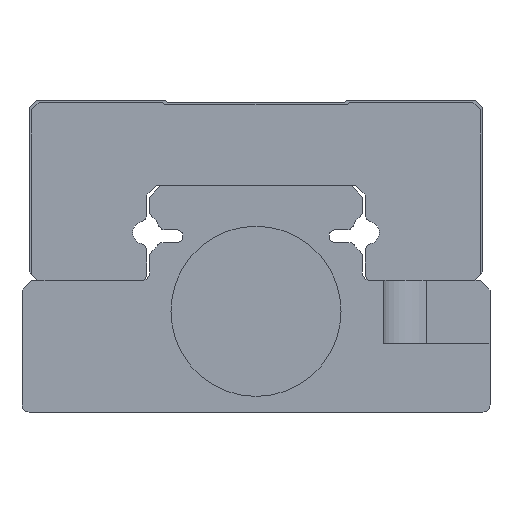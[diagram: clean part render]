
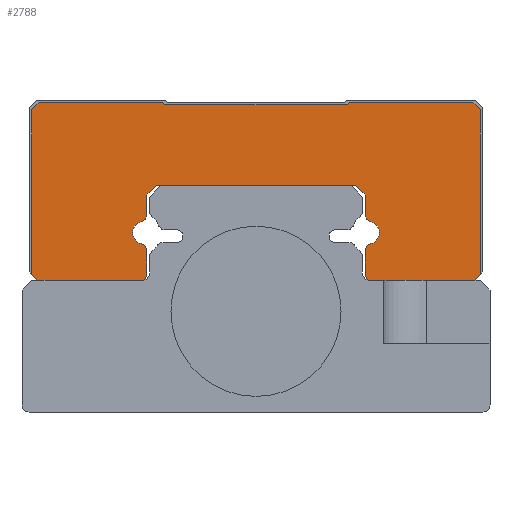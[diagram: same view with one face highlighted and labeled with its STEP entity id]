
A CAD part, front view. The second image highlights one B-rep face of the part: STEP entity #2788.
In plain terms, the highlighted planar face has unit normal (0, -1, 0).
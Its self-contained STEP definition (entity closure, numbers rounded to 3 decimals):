
#175=CIRCLE('',#3080,0.5);
#177=CIRCLE('',#3086,0.5);
#185=CIRCLE('',#3097,0.5);
#186=CIRCLE('',#3098,0.8);
#187=CIRCLE('',#3099,0.5);
#188=CIRCLE('',#3100,0.5);
#189=CIRCLE('',#3101,0.8);
#190=CIRCLE('',#3102,0.5);
#730=ORIENTED_EDGE('',*,*,#1164,.F.);
#731=ORIENTED_EDGE('',*,*,#1253,.F.);
#732=ORIENTED_EDGE('',*,*,#1238,.F.);
#733=ORIENTED_EDGE('',*,*,#1234,.F.);
#734=ORIENTED_EDGE('',*,*,#1254,.F.);
#735=ORIENTED_EDGE('',*,*,#1255,.F.);
#736=ORIENTED_EDGE('',*,*,#1256,.T.);
#737=ORIENTED_EDGE('',*,*,#1257,.F.);
#738=ORIENTED_EDGE('',*,*,#1258,.F.);
#739=ORIENTED_EDGE('',*,*,#1231,.F.);
#740=ORIENTED_EDGE('',*,*,#1228,.F.);
#741=ORIENTED_EDGE('',*,*,#1224,.F.);
#742=ORIENTED_EDGE('',*,*,#1259,.F.);
#743=ORIENTED_EDGE('',*,*,#1260,.F.);
#744=ORIENTED_EDGE('',*,*,#1261,.T.);
#745=ORIENTED_EDGE('',*,*,#1262,.F.);
#746=ORIENTED_EDGE('',*,*,#1263,.F.);
#747=ORIENTED_EDGE('',*,*,#1221,.F.);
#748=ORIENTED_EDGE('',*,*,#1217,.F.);
#749=ORIENTED_EDGE('',*,*,#1264,.F.);
#750=ORIENTED_EDGE('',*,*,#1188,.F.);
#751=ORIENTED_EDGE('',*,*,#1185,.F.);
#752=ORIENTED_EDGE('',*,*,#1182,.F.);
#753=ORIENTED_EDGE('',*,*,#1179,.F.);
#754=ORIENTED_EDGE('',*,*,#1176,.F.);
#755=ORIENTED_EDGE('',*,*,#1173,.F.);
#756=ORIENTED_EDGE('',*,*,#1170,.F.);
#757=ORIENTED_EDGE('',*,*,#1167,.F.);
#1164=EDGE_CURVE('',#1486,#1484,#1727,.T.);
#1167=EDGE_CURVE('',#1484,#1488,#1730,.T.);
#1170=EDGE_CURVE('',#1488,#1490,#1733,.T.);
#1173=EDGE_CURVE('',#1490,#1492,#1736,.T.);
#1176=EDGE_CURVE('',#1492,#1494,#1739,.T.);
#1179=EDGE_CURVE('',#1494,#1496,#1742,.T.);
#1182=EDGE_CURVE('',#1496,#1498,#1745,.T.);
#1185=EDGE_CURVE('',#1498,#1500,#1748,.T.);
#1188=EDGE_CURVE('',#1500,#1502,#1751,.T.);
#1217=EDGE_CURVE('',#1523,#1524,#1780,.T.);
#1221=EDGE_CURVE('',#1524,#1527,#175,.T.);
#1224=EDGE_CURVE('',#1529,#1530,#1785,.T.);
#1228=EDGE_CURVE('',#1530,#1533,#1789,.T.);
#1231=EDGE_CURVE('',#1533,#1535,#1792,.T.);
#1234=EDGE_CURVE('',#1537,#1538,#177,.T.);
#1238=EDGE_CURVE('',#1538,#1541,#1797,.T.);
#1253=EDGE_CURVE('',#1541,#1486,#1806,.T.);
#1254=EDGE_CURVE('',#1551,#1537,#1807,.T.);
#1255=EDGE_CURVE('',#1552,#1551,#185,.T.);
#1256=EDGE_CURVE('',#1552,#1553,#186,.T.);
#1257=EDGE_CURVE('',#1554,#1553,#187,.T.);
#1258=EDGE_CURVE('',#1535,#1554,#1808,.T.);
#1259=EDGE_CURVE('',#1555,#1529,#1809,.T.);
#1260=EDGE_CURVE('',#1556,#1555,#188,.T.);
#1261=EDGE_CURVE('',#1556,#1557,#189,.T.);
#1262=EDGE_CURVE('',#1558,#1557,#190,.T.);
#1263=EDGE_CURVE('',#1527,#1558,#1810,.T.);
#1264=EDGE_CURVE('',#1502,#1523,#1811,.T.);
#1484=VERTEX_POINT('',#4465);
#1486=VERTEX_POINT('',#4469);
#1488=VERTEX_POINT('',#4474);
#1490=VERTEX_POINT('',#4480);
#1492=VERTEX_POINT('',#4486);
#1494=VERTEX_POINT('',#4492);
#1496=VERTEX_POINT('',#4498);
#1498=VERTEX_POINT('',#4504);
#1500=VERTEX_POINT('',#4510);
#1502=VERTEX_POINT('',#4516);
#1523=VERTEX_POINT('',#4578);
#1524=VERTEX_POINT('',#4579);
#1527=VERTEX_POINT('',#4587);
#1529=VERTEX_POINT('',#4593);
#1530=VERTEX_POINT('',#4594);
#1533=VERTEX_POINT('',#4602);
#1535=VERTEX_POINT('',#4608);
#1537=VERTEX_POINT('',#4614);
#1538=VERTEX_POINT('',#4615);
#1541=VERTEX_POINT('',#4623);
#1551=VERTEX_POINT('',#4651);
#1552=VERTEX_POINT('',#4653);
#1553=VERTEX_POINT('',#4655);
#1554=VERTEX_POINT('',#4657);
#1555=VERTEX_POINT('',#4660);
#1556=VERTEX_POINT('',#4662);
#1557=VERTEX_POINT('',#4664);
#1558=VERTEX_POINT('',#4666);
#1727=LINE('',#4470,#1971);
#1730=LINE('',#4476,#1974);
#1733=LINE('',#4482,#1977);
#1736=LINE('',#4488,#1980);
#1739=LINE('',#4494,#1983);
#1742=LINE('',#4500,#1986);
#1745=LINE('',#4506,#1989);
#1748=LINE('',#4512,#1992);
#1751=LINE('',#4518,#1995);
#1780=LINE('',#4577,#2024);
#1785=LINE('',#4592,#2029);
#1789=LINE('',#4601,#2033);
#1792=LINE('',#4607,#2036);
#1797=LINE('',#4622,#2041);
#1806=LINE('',#4649,#2050);
#1807=LINE('',#4650,#2051);
#1808=LINE('',#4658,#2052);
#1809=LINE('',#4659,#2053);
#1810=LINE('',#4667,#2054);
#1811=LINE('',#4668,#2055);
#1971=VECTOR('',#3647,1000.);
#1974=VECTOR('',#3652,1000.);
#1977=VECTOR('',#3657,1000.);
#1980=VECTOR('',#3662,1000.);
#1983=VECTOR('',#3667,1000.);
#1986=VECTOR('',#3672,1000.);
#1989=VECTOR('',#3677,1000.);
#1992=VECTOR('',#3682,1000.);
#1995=VECTOR('',#3687,1000.);
#2024=VECTOR('',#3736,1000.);
#2029=VECTOR('',#3749,1000.);
#2033=VECTOR('',#3755,1000.);
#2036=VECTOR('',#3760,1000.);
#2041=VECTOR('',#3773,1000.);
#2050=VECTOR('',#3798,1000.);
#2051=VECTOR('',#3799,1000.);
#2052=VECTOR('',#3806,1000.);
#2053=VECTOR('',#3807,1000.);
#2054=VECTOR('',#3814,1000.);
#2055=VECTOR('',#3815,1000.);
#2254=EDGE_LOOP('',(#730,#731,#732,#733,#734,#735,#736,#737,#738,#739,#740,
#741,#742,#743,#744,#745,#746,#747,#748,#749,#750,#751,#752,#753,#754,#755,
#756,#757));
#2492=FACE_BOUND('',#2254,.T.);
#2645=PLANE('',#3096);
#2788=ADVANCED_FACE('',(#2492),#2645,.F.);
#3080=AXIS2_PLACEMENT_3D('',#4586,#3742,#3743);
#3086=AXIS2_PLACEMENT_3D('',#4613,#3765,#3766);
#3096=AXIS2_PLACEMENT_3D('',#4648,#3796,#3797);
#3097=AXIS2_PLACEMENT_3D('',#4652,#3800,#3801);
#3098=AXIS2_PLACEMENT_3D('',#4654,#3802,#3803);
#3099=AXIS2_PLACEMENT_3D('',#4656,#3804,#3805);
#3100=AXIS2_PLACEMENT_3D('',#4661,#3808,#3809);
#3101=AXIS2_PLACEMENT_3D('',#4663,#3810,#3811);
#3102=AXIS2_PLACEMENT_3D('',#4665,#3812,#3813);
#3647=DIRECTION('',(0.,0.,1.));
#3652=DIRECTION('',(0.707,0.,0.707));
#3657=DIRECTION('',(1.,0.,0.));
#3662=DIRECTION('',(0.707,0.,-0.707));
#3667=DIRECTION('',(1.,0.,0.));
#3672=DIRECTION('',(0.707,0.,0.707));
#3677=DIRECTION('',(1.,0.,0.));
#3682=DIRECTION('',(0.707,0.,-0.707));
#3687=DIRECTION('',(0.,0.,-1.));
#3736=DIRECTION('',(-1.,0.,0.));
#3742=DIRECTION('',(0.,1.,0.));
#3743=DIRECTION('',(1.,0.,0.));
#3749=DIRECTION('',(-0.707,0.,0.707));
#3755=DIRECTION('',(-1.,0.,0.));
#3760=DIRECTION('',(-0.707,0.,-0.707));
#3765=DIRECTION('',(0.,1.,0.));
#3766=DIRECTION('',(1.,0.,0.));
#3773=DIRECTION('',(-1.,0.,0.));
#3796=DIRECTION('',(0.,1.,0.));
#3797=DIRECTION('',(0.,0.,1.));
#3798=DIRECTION('',(-0.707,0.,0.707));
#3799=DIRECTION('',(0.,0.,-1.));
#3800=DIRECTION('',(0.,1.,0.));
#3801=DIRECTION('',(1.,0.,0.));
#3802=DIRECTION('',(0.,1.,0.));
#3803=DIRECTION('',(1.,0.,0.));
#3804=DIRECTION('',(0.,1.,0.));
#3805=DIRECTION('',(1.,0.,0.));
#3806=DIRECTION('',(0.,0.,-1.));
#3807=DIRECTION('',(0.,0.,1.));
#3808=DIRECTION('',(0.,1.,0.));
#3809=DIRECTION('',(1.,0.,0.));
#3810=DIRECTION('',(0.,1.,0.));
#3811=DIRECTION('',(1.,0.,0.));
#3812=DIRECTION('',(0.,1.,0.));
#3813=DIRECTION('',(1.,0.,0.));
#3814=DIRECTION('',(0.,0.,1.));
#3815=DIRECTION('',(-0.707,0.,-0.707));
#4465=CARTESIAN_POINT('',(-15.8,8.5,21.3));
#4469=CARTESIAN_POINT('',(-15.8,8.5,9.7));
#4470=CARTESIAN_POINT('',(-15.8,8.5,9.7));
#4474=CARTESIAN_POINT('',(-15.3,8.5,21.8));
#4476=CARTESIAN_POINT('',(-15.8,8.5,21.3));
#4480=CARTESIAN_POINT('',(-6.6,8.5,21.8));
#4482=CARTESIAN_POINT('',(-15.3,8.5,21.8));
#4486=CARTESIAN_POINT('',(-6.45,8.5,21.65));
#4488=CARTESIAN_POINT('',(-6.6,8.5,21.8));
#4492=CARTESIAN_POINT('',(6.45,8.5,21.65));
#4494=CARTESIAN_POINT('',(-6.45,8.5,21.65));
#4498=CARTESIAN_POINT('',(6.6,8.5,21.8));
#4500=CARTESIAN_POINT('',(6.45,8.5,21.65));
#4504=CARTESIAN_POINT('',(15.3,8.5,21.8));
#4506=CARTESIAN_POINT('',(6.6,8.5,21.8));
#4510=CARTESIAN_POINT('',(15.8,8.5,21.3));
#4512=CARTESIAN_POINT('',(15.3,8.5,21.8));
#4516=CARTESIAN_POINT('',(15.8,8.5,9.7));
#4518=CARTESIAN_POINT('',(15.8,8.5,21.3));
#4577=CARTESIAN_POINT('',(15.3,8.5,9.2));
#4578=CARTESIAN_POINT('',(15.3,8.5,9.2));
#4579=CARTESIAN_POINT('',(8.2,8.5,9.2));
#4586=CARTESIAN_POINT('',(8.2,8.5,9.7));
#4587=CARTESIAN_POINT('',(7.7,8.5,9.7));
#4592=CARTESIAN_POINT('',(7.7,8.5,15.3));
#4593=CARTESIAN_POINT('',(7.7,8.5,15.3));
#4594=CARTESIAN_POINT('',(7.,8.5,16.));
#4601=CARTESIAN_POINT('',(7.,8.5,16.));
#4602=CARTESIAN_POINT('',(-7.,8.5,16.));
#4607=CARTESIAN_POINT('',(-7.,8.5,16.));
#4608=CARTESIAN_POINT('',(-7.7,8.5,15.3));
#4613=CARTESIAN_POINT('',(-8.2,8.5,9.7));
#4614=CARTESIAN_POINT('',(-7.7,8.5,9.7));
#4615=CARTESIAN_POINT('',(-8.2,8.5,9.2));
#4622=CARTESIAN_POINT('',(-8.2,8.5,9.2));
#4623=CARTESIAN_POINT('',(-15.3,8.5,9.2));
#4648=CARTESIAN_POINT('',(8.2,8.5,9.7));
#4649=CARTESIAN_POINT('',(-15.3,8.5,9.2));
#4650=CARTESIAN_POINT('',(-7.7,8.5,11.385));
#4651=CARTESIAN_POINT('',(-7.7,8.5,11.385));
#4652=CARTESIAN_POINT('',(-8.2,8.5,11.385));
#4653=CARTESIAN_POINT('',(-8.085,8.5,11.872));
#4654=CARTESIAN_POINT('',(-7.9,8.5,12.65));
#4655=CARTESIAN_POINT('',(-8.085,8.5,13.428));
#4656=CARTESIAN_POINT('',(-8.2,8.5,13.915));
#4657=CARTESIAN_POINT('',(-7.7,8.5,13.915));
#4658=CARTESIAN_POINT('',(-7.7,8.5,15.3));
#4659=CARTESIAN_POINT('',(7.7,8.5,13.915));
#4660=CARTESIAN_POINT('',(7.7,8.5,13.915));
#4661=CARTESIAN_POINT('',(8.2,8.5,13.915));
#4662=CARTESIAN_POINT('',(8.085,8.5,13.428));
#4663=CARTESIAN_POINT('',(7.9,8.5,12.65));
#4664=CARTESIAN_POINT('',(8.085,8.5,11.872));
#4665=CARTESIAN_POINT('',(8.2,8.5,11.385));
#4666=CARTESIAN_POINT('',(7.7,8.5,11.385));
#4667=CARTESIAN_POINT('',(7.7,8.5,9.7));
#4668=CARTESIAN_POINT('',(15.8,8.5,9.7));
